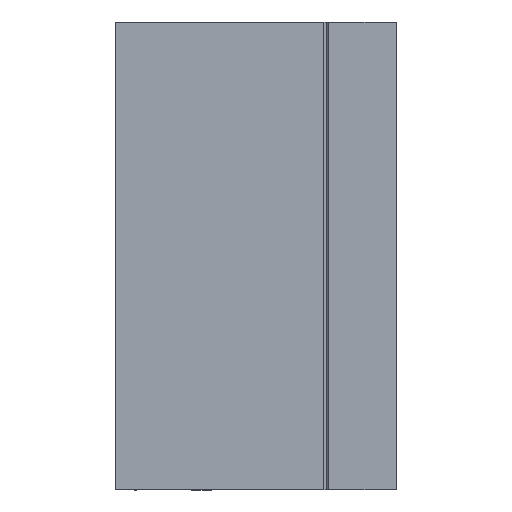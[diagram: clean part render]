
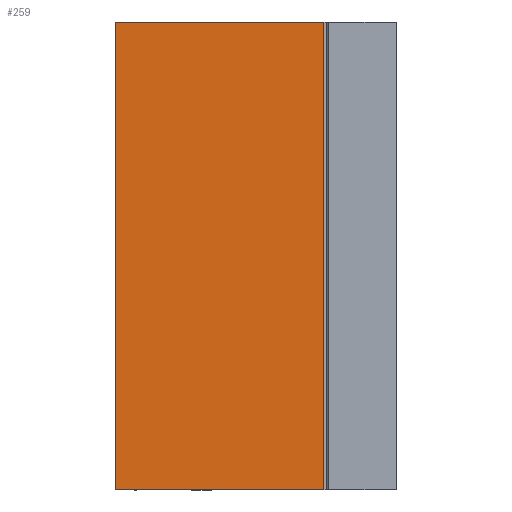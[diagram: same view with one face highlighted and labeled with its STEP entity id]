
A CAD part, front view. The second image highlights one B-rep face of the part: STEP entity #259.
In plain terms, the highlighted planar face has unit normal (0, -1, 0).
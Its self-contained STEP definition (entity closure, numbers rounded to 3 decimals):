
#7 = CARTESIAN_POINT ( 'NONE',  ( 14.5, -30., -50. ) ) ;
#85 = LINE ( 'NONE', #1183, #1509 ) ;
#86 = VERTEX_POINT ( 'NONE', #1121 ) ;
#102 = CARTESIAN_POINT ( 'NONE',  ( 14.5, -30., 0. ) ) ;
#159 = VECTOR ( 'NONE', #972, 1000. ) ;
#187 = LINE ( 'NONE', #198, #1477 ) ;
#196 = DIRECTION ( 'NONE',  ( 1., 0., 0. ) ) ;
#198 = CARTESIAN_POINT ( 'NONE',  ( -30., -30., 0. ) ) ;
#201 = CARTESIAN_POINT ( 'NONE',  ( 14.5, -30., 50. ) ) ;
#224 = CARTESIAN_POINT ( 'NONE',  ( -30., -30., 50. ) ) ;
#259 = ADVANCED_FACE ( 'NONE', ( #290 ), #1016, .T. ) ;
#272 = EDGE_CURVE ( 'NONE', #86, #1559, #1558, .T. ) ;
#290 = FACE_OUTER_BOUND ( 'NONE', #404, .T. ) ;
#292 = ORIENTED_EDGE ( 'NONE', *, *, #272, .T. ) ;
#317 = EDGE_CURVE ( 'NONE', #1416, #86, #187, .T. ) ;
#383 = ORIENTED_EDGE ( 'NONE', *, *, #938, .T. ) ;
#399 = DIRECTION ( 'NONE',  ( 0., 0., -1. ) ) ;
#404 = EDGE_LOOP ( 'NONE', ( #1239, #292, #383, #1187 ) ) ;
#636 = VECTOR ( 'NONE', #706, 1000. ) ;
#699 = CARTESIAN_POINT ( 'NONE',  ( 0., -30., -50. ) ) ;
#706 = DIRECTION ( 'NONE',  ( 1., 0., 0. ) ) ;
#774 = EDGE_CURVE ( 'NONE', #1416, #1194, #85, .T. ) ;
#938 = EDGE_CURVE ( 'NONE', #1559, #1194, #1578, .T. ) ;
#972 = DIRECTION ( 'NONE',  ( 0., 0., 1. ) ) ;
#1016 = PLANE ( 'NONE',  #1102 ) ;
#1102 = AXIS2_PLACEMENT_3D ( 'NONE', #1272, #1502, #399 ) ;
#1121 = CARTESIAN_POINT ( 'NONE',  ( -30., -30., -50. ) ) ;
#1183 = CARTESIAN_POINT ( 'NONE',  ( 0., -30., 50. ) ) ;
#1187 = ORIENTED_EDGE ( 'NONE', *, *, #774, .F. ) ;
#1194 = VERTEX_POINT ( 'NONE', #201 ) ;
#1239 = ORIENTED_EDGE ( 'NONE', *, *, #317, .T. ) ;
#1272 = CARTESIAN_POINT ( 'NONE',  ( 30., -30., 0. ) ) ;
#1416 = VERTEX_POINT ( 'NONE', #224 ) ;
#1420 = DIRECTION ( 'NONE',  ( 0., 0., -1. ) ) ;
#1477 = VECTOR ( 'NONE', #1420, 1000. ) ;
#1502 = DIRECTION ( 'NONE',  ( 0., -1., 0. ) ) ;
#1509 = VECTOR ( 'NONE', #196, 1000. ) ;
#1558 = LINE ( 'NONE', #699, #636 ) ;
#1559 = VERTEX_POINT ( 'NONE', #7 ) ;
#1578 = LINE ( 'NONE', #102, #159 ) ;
